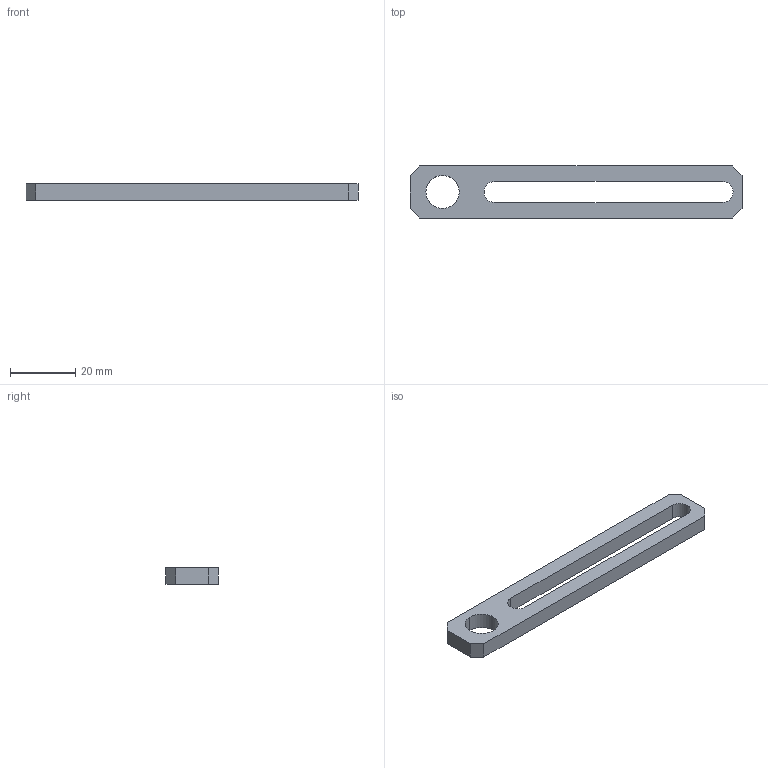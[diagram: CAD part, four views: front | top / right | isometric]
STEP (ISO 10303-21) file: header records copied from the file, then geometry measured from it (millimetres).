
FILE_DESCRIPTION (( 'STEP AP214' ), '1' );
FILE_NAME ('SCF3-70M12.STEP', '2019-11-11T00:55:44', ( '微软用户' ), ( '微软中国' ), 'SwSTEP 2.0', 'SolidWorks 2016', '' );
FILE_SCHEMA (( 'AUTOMOTIVE_DESIGN' ));
Length unit declared in the file: millimetre
Products named in the file (1): SCF3-70M12
Bounding box: 102 x 16 x 5 mm (x, y, z)
Volume: 5220.5 mm3; surface area: 4195.4 mm2
Topology: 1 solids, 1 shells, 17 faces, 45 edges, 30 vertices
Faces by surface type: plane 12, cylinder 5
Entity records: 571 total; most frequent: CARTESIAN_POINT 93, DIRECTION 91, ORIENTED_EDGE 90, EDGE_CURVE 45, VECTOR 35, LINE 35, VERTEX_POINT 30, AXIS2_PLACEMENT_3D 28
